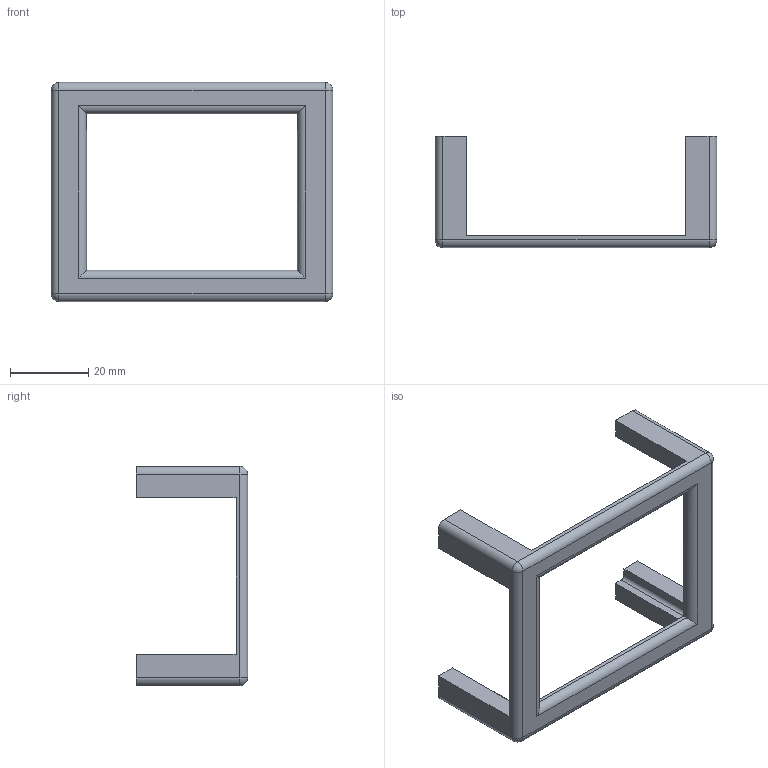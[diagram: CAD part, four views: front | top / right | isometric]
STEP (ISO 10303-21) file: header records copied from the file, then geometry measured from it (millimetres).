
FILE_DESCRIPTION (( 'STEP AP214' ), '1' );
FILE_NAME ('俋褲1.STEP', '2024-11-09T09:35:30', ( '' ), ( '' ), 'SwSTEP 2.0', 'SolidWorks 2024', '' );
FILE_SCHEMA (( 'AUTOMOTIVE_DESIGN' ));
Length unit declared in the file: millimetre
Products named in the file (1): 外壳1
Bounding box: 72 x 28.5 x 56 mm (x, y, z)
Volume: 10303.9 mm3; surface area: 8310.5 mm2
Topology: 1 solids, 1 shells, 62 faces, 156 edges, 96 vertices
Faces by surface type: plane 34, cylinder 24, sphere 4
Entity records: 1835 total; most frequent: CARTESIAN_POINT 323, DIRECTION 314, ORIENTED_EDGE 304, EDGE_CURVE 152, LINE 108, VECTOR 108, AXIS2_PLACEMENT_3D 103, VERTEX_POINT 96
